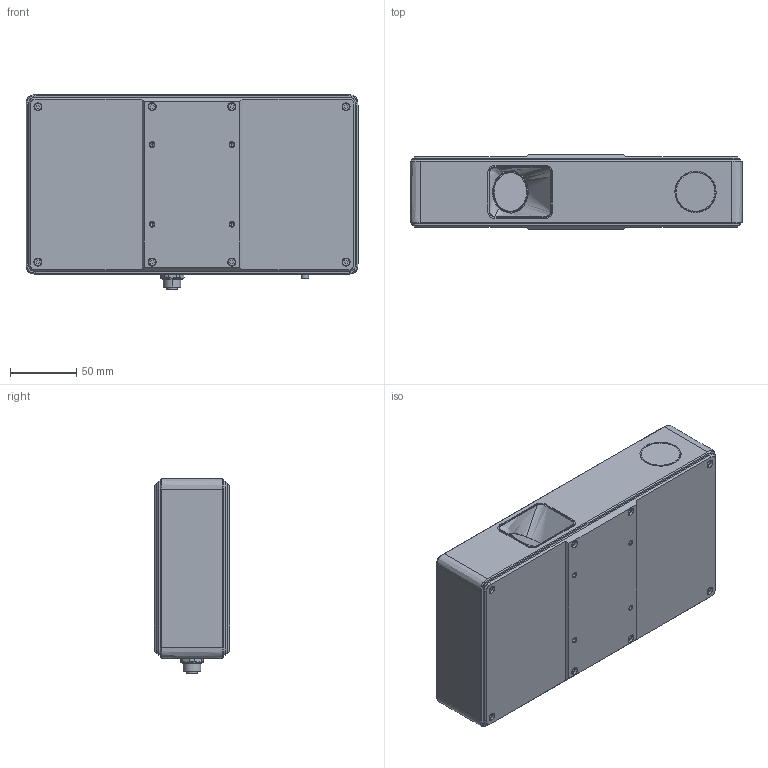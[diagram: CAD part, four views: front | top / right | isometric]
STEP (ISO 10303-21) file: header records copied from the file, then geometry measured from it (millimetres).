
FILE_DESCRIPTION(/* description */ (''),/* implementation_level */ '2;1');
FILE_NAME(/* name */ 'RVC-I360',/* time_stamp */ '2024-01-17T16:28:03+08:00',/* author */ (''),/* organization */ (''),/* preprocessor_version */ 'ST-DEVELOPER v16.5',/* originating_system */ 'Rhino 7.25',/* authorisation */ '');
FILE_SCHEMA (('CONFIG_CONTROL_DESIGN'));
Length unit declared in the file: millimetre
Products named in the file (1): Document
Bounding box: 250 x 57 x 146.6 mm (x, y, z)
Volume: 1799463.9 mm3; surface area: 110969.2 mm2
Topology: 1 solids, 1 shells, 705 faces, 1742 edges, 1121 vertices
Faces by surface type: plane 327, bspline 244, cylinder 134
Entity records: 30846 total; most frequent: CARTESIAN_POINT 18511, ORIENTED_EDGE 3466, EDGE_CURVE 1733, B_SPLINE_CURVE_WITH_KNOTS 1331, VERTEX_POINT 1121, EDGE_LOOP 796, ADVANCED_FACE 705, FACE_OUTER_BOUND 705
